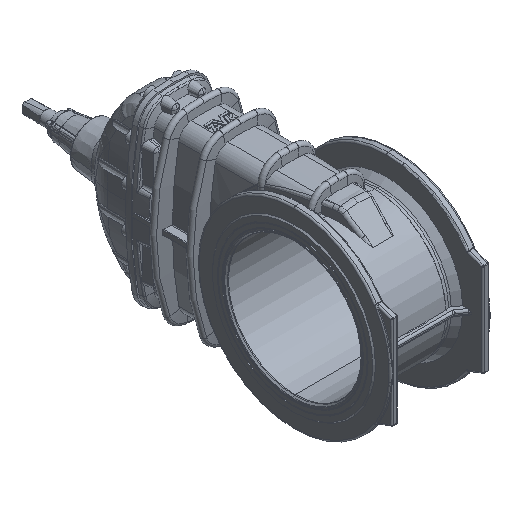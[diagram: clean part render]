
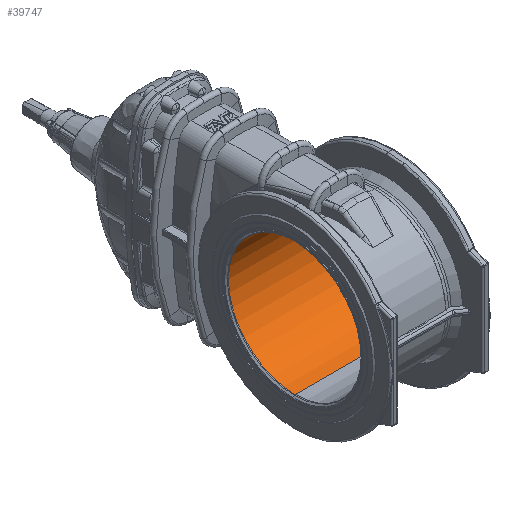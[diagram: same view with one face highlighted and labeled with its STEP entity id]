
A CAD part, isometric view. The second image highlights one B-rep face of the part: STEP entity #39747.
In plain terms, the highlighted cylindrical face has radius 200 mm (diameter 400 mm), a partial arc.
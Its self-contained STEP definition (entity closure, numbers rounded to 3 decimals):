
#488 = EDGE_LOOP ( 'NONE', ( #36125, #13168, #24315, #39761 ) ) ;
#1685 = EDGE_CURVE ( 'NONE', #34274, #19117, #25756, .T. ) ;
#2455 = DIRECTION ( 'NONE',  ( 0., 0., -1. ) ) ;
#3595 = EDGE_CURVE ( 'Defeatured_0_849+Defeatured_0_850+Defeatured_0_850+Defeatured_0_850', #40922, #19117, #14045, .T. ) ;
#4204 = VERTEX_POINT ( 'NONE', #28266 ) ;
#6117 = AXIS2_PLACEMENT_3D ( 'NONE', #25832, #39257, #25609 ) ;
#7473 = AXIS2_PLACEMENT_3D ( 'NONE', #26109, #12035, #29429 ) ;
#8892 = LINE ( 'NONE', #32236, #17090 ) ;
#12035 = DIRECTION ( 'NONE',  ( -1., 0., 0. ) ) ;
#12199 = DIRECTION ( 'NONE',  ( -1., 0., 0. ) ) ;
#13168 = ORIENTED_EDGE ( 'NONE', *, *, #39455, .T. ) ;
#14045 = CIRCLE ( 'NONE', #35841, 200. ) ;
#14779 = CARTESIAN_POINT ( 'NONE',  ( -147.757, 0., 200. ) ) ;
#16092 = DIRECTION ( 'NONE',  ( -1., 0., 0. ) ) ;
#17090 = VECTOR ( 'NONE', #12199, 1000. ) ;
#18116 = CARTESIAN_POINT ( 'NONE',  ( -147.757, 0., -200. ) ) ;
#19117 = VERTEX_POINT ( 'NONE', #18116 ) ;
#24315 = ORIENTED_EDGE ( 'NONE', *, *, #3595, .T. ) ;
#25609 = DIRECTION ( 'NONE',  ( 0., 0., -1. ) ) ;
#25756 = LINE ( 'NONE', #42041, #28233 ) ;
#25832 = CARTESIAN_POINT ( 'NONE',  ( 147.757, 0., 0. ) ) ;
#26109 = CARTESIAN_POINT ( 'NONE',  ( 160., 0., 0. ) ) ;
#26993 = CARTESIAN_POINT ( 'NONE',  ( 147.757, 0., -200. ) ) ;
#28233 = VECTOR ( 'NONE', #29294, 1000. ) ;
#28266 = CARTESIAN_POINT ( 'NONE',  ( 147.757, 0., 200. ) ) ;
#29217 = CYLINDRICAL_SURFACE ( 'NONE', #7473, 200. ) ;
#29294 = DIRECTION ( 'NONE',  ( -1., 0., 0. ) ) ;
#29429 = DIRECTION ( 'NONE',  ( 0., 0., -1. ) ) ;
#32236 = CARTESIAN_POINT ( 'NONE',  ( 160., 0., 200. ) ) ;
#32736 = FACE_OUTER_BOUND ( 'NONE', #488, .T. ) ;
#32825 = CIRCLE ( 'NONE', #6117, 200. ) ;
#34274 = VERTEX_POINT ( 'NONE', #26993 ) ;
#35841 = AXIS2_PLACEMENT_3D ( 'NONE', #42055, #16092, #2455 ) ;
#36125 = ORIENTED_EDGE ( 'NONE', *, *, #43182, .F. ) ;
#39257 = DIRECTION ( 'NONE',  ( -1., 0., 0. ) ) ;
#39455 = EDGE_CURVE ( 'NONE', #4204, #40922, #8892, .T. ) ;
#39747 = ADVANCED_FACE ( 'Defeatured_0_849', ( #32736 ), #29217, .F. ) ;
#39761 = ORIENTED_EDGE ( 'NONE', *, *, #1685, .F. ) ;
#40922 = VERTEX_POINT ( 'NONE', #14779 ) ;
#42041 = CARTESIAN_POINT ( 'NONE',  ( 160., 0., -200. ) ) ;
#42055 = CARTESIAN_POINT ( 'NONE',  ( -147.757, 0., 0. ) ) ;
#43182 = EDGE_CURVE ( 'Defeatured_0_848+Defeatured_0_849+Defeatured_0_849+Defeatured_0_849', #4204, #34274, #32825, .T. ) ;
